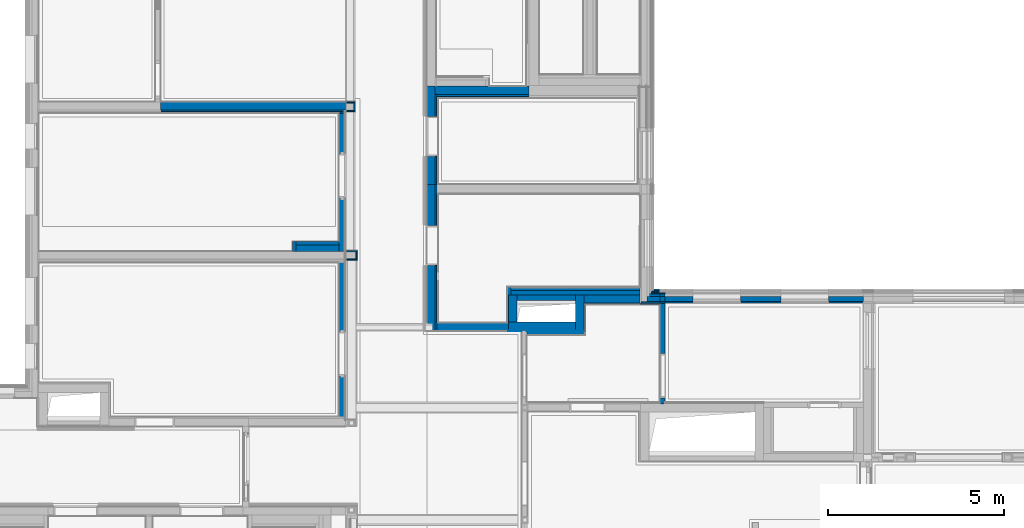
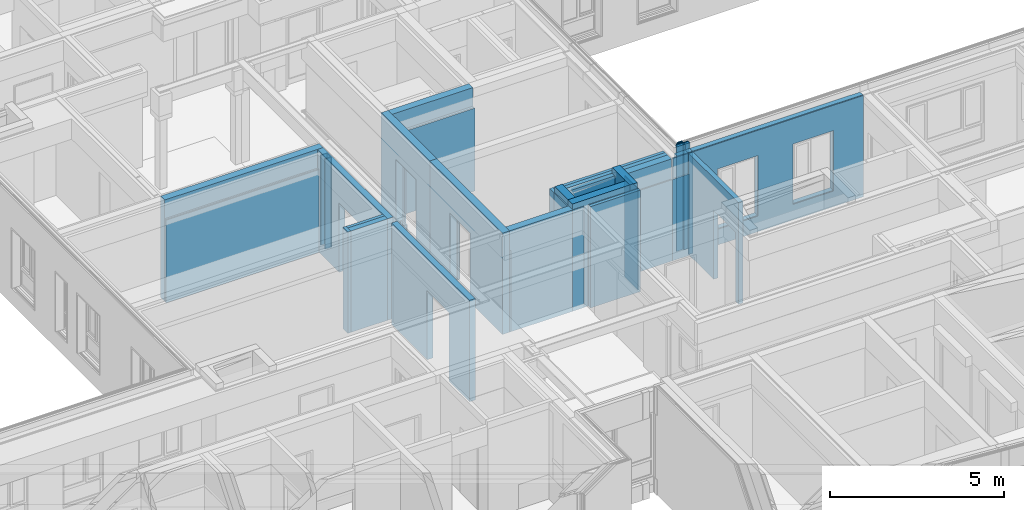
# One storey, part 27 of 222: 53 walls, 13 openings.
"""IFC4 building model written with IfcOpenShell, lengths in metres."""

from ifc_helpers import new_model, entity, si_unit, converted_unit, derived_unit, frame, frame_2d, origin, origin_with_axes, place, context, subcontext, project, spatial, polyline, rectangle, outline, extrude, clip, bounded_halfspace, material, element, save


model = new_model("IFC4")

# Units and contexts
model_context = context("Model", 3, precision=1e-05, world=origin())
body_context = subcontext(model_context, "Body", "Model", "MODEL_VIEW")
ifc_project = project(units=[si_unit("LENGTHUNIT", "METRE"), si_unit("AREAUNIT", "SQUARE_METRE"), si_unit("VOLUMEUNIT", "CUBIC_METRE"), si_unit("MASSUNIT", "GRAM", prefix="KILO"), converted_unit("PLANEANGLEUNIT", "DEGREE", entity("IfcPlaneAngleMeasure", 0.0174532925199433), si_unit("PLANEANGLEUNIT", "RADIAN"), dimensions=[0, 0, 0, 0, 0, 0, 0]), derived_unit("THERMALTRANSMITTANCEUNIT", [(si_unit("POWERUNIT", "WATT"), 1), (si_unit("THERMODYNAMICTEMPERATUREUNIT", "KELVIN"), -1), (si_unit("LENGTHUNIT", "METRE"), -2)]), derived_unit("VOLUMETRICFLOWRATEUNIT", [(si_unit("LENGTHUNIT", "METRE"), 3), (converted_unit("TIMEUNIT", "hour", entity("IfcTimeMeasure", 3600.0), si_unit("TIMEUNIT", "SECOND"), dimensions=[0, 0, 1, 0, 0, 0, 0]), -1), (si_unit("LENGTHUNIT", "METRE"), -1)])], contexts=[model_context])

# Site, building, storey
site_placement = place(None, origin())
site = spatial("IfcSite", under=ifc_project, at=site_placement, Name="Psychiatrie Neubau Wunstorf", CompositionType="ELEMENT")
building_placement = place(site_placement, origin())
building = spatial("IfcBuilding", under=site, at=building_placement, Name="Neubau H2 Stationsgebäude", CompositionType="ELEMENT")
storey_placement = place(building_placement, frame((0.0, 0.0, 3.6)))
storey = spatial("IfcBuildingStorey", under=building, at=storey_placement, Name="H2 Ebene +1", CompositionType="ELEMENT", Elevation=3.6)

# Walls
ifc_material_1 = material(Name="WA-LB")
wall_1_placement = place(storey_placement, frame((43.9750000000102, 10.1139996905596, 0.0)))
element("IfcWall", 1, at=wall_1_placement, inside=storey, material=ifc_material_1, context=body_context, shape_type="SweptSolid", body=[
    extrude(rectangle(XDim=0.524999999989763, YDim=0.036, at=frame_2d((0.262499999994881, 0.018), x_axis=(1.0, 0.0))), origin_with_axes(), (0.0, 0.0, 1.0), 3.55),
])
ifc_material_2 = material(Name="WA-DL")
wall_2_placement = place(storey_placement, frame((44.1350000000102, 10.1499996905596, 0.0)))
element("IfcWall", 2, at=wall_2_placement, inside=storey, material=ifc_material_2, context=body_context, shape_type="SweptSolid", body=[
    extrude(rectangle(XDim=0.364999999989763, YDim=0.16, at=frame_2d((0.182499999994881, 0.08), x_axis=(1.0, 0.0))), origin_with_axes(), (0.0, 0.0, 1.0), 3.55),
])
ifc_material_3 = material(Name="WA-DL")
wall_3_placement = place(storey_placement, frame((44.2150000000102, 10.3099996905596, 0.0)))
element("IfcWall", 3, at=wall_3_placement, inside=storey, material=ifc_material_3, context=body_context, shape_type="SweptSolid", body=[
    extrude(rectangle(XDim=0.284999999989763, YDim=0.08, at=frame_2d((0.142499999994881, 0.04), x_axis=(1.0, 0.0))), origin_with_axes(), (0.0, 0.0, 1.0), 3.75),
])
ifc_material_4 = material(Name="WA-LB")
wall_4_placement = place(storey_placement, frame((44.2510000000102, 10.3899996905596, 0.0)))
element("IfcWall", 4, at=wall_4_placement, inside=storey, material=ifc_material_4, context=body_context, shape_type="SweptSolid", body=[
    extrude(rectangle(XDim=0.248999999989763, YDim=0.036, at=frame_2d((0.124499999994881, 0.018), x_axis=(1.0, 0.0))), origin_with_axes(), (0.0, 0.0, 1.0), 3.75),
])
ifc_material_5 = material(Name="WA-KL")
wall_5_placement = place(storey_placement, frame((44.2750000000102, 10.4259996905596, 0.0)))
element("IfcWall", 5, at=wall_5_placement, inside=storey, material=ifc_material_5, context=body_context, shape_type="SweptSolid", body=[
    extrude(rectangle(XDim=0.224999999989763, YDim=0.024, at=frame_2d((0.112499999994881, 0.012), x_axis=(1.0, 0.0))), origin_with_axes(), (0.0, 0.0, 1.0), 3.75),
])
ifc_material_6 = material(Name="WA-TL")
wall_6_placement = place(storey_placement, frame((44.2990000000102, 10.4499996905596, 0.0)))
element("IfcWall", 6, at=wall_6_placement, inside=storey, material=ifc_material_6, context=body_context, shape_type="SweptSolid", body=[
    extrude(rectangle(XDim=0.200999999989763, YDim=0.024, at=frame_2d((0.100499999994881, 0.012), x_axis=(1.0, 0.0))), origin_with_axes(), (0.0, 0.0, 1.0), 3.75),
])
ifc_material_7 = material(Name="WA-HS")
wall_7_placement = place(storey_placement, frame((44.3410000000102, 10.4739996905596, 0.0)))
element("IfcWall", 7, at=wall_7_placement, inside=storey, material=ifc_material_7, context=body_context, shape_type="SweptSolid", body=[
    extrude(rectangle(XDim=0.158999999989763, YDim=0.042, at=frame_2d((0.0794999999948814, 0.021), x_axis=(1.0, 0.0))), origin_with_axes(), (0.0, 0.0, 1.0), 3.75),
])
ifc_material_8 = material(Name="WA-LB")
wall_8_placement = place(storey_placement, frame((44.5, 10.1139996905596, 0.0), z_axis=(0.0, 0.0, 1.0), x_axis=(1.0, 2.42531920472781e-14, 0.0)))
element("IfcWall", 8, at=wall_8_placement, inside=storey, material=ifc_material_8, Name="2x Gipsfaserplatte", context=body_context, shape_type="SweptSolid", body=[
    extrude(rectangle(XDim=0.15, YDim=0.036, at=frame_2d((0.075, 0.018), x_axis=(1.0, 0.0))), origin_with_axes(), (0.0, 0.0, 1.0), 3.55),
])
ifc_material_9 = material(Name="WA-DL")
wall_9_placement = place(storey_placement, frame((44.5, 10.1499996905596, 0.0), z_axis=(0.0, 0.0, 1.0), x_axis=(1.0, 2.42531920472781e-14, 0.0)))
element("IfcWall", 9, at=wall_9_placement, inside=storey, material=ifc_material_9, Name="Holzständer + Zwischendämmung", context=body_context, shape_type="SweptSolid", body=[
    extrude(rectangle(XDim=0.15, YDim=0.16, at=frame_2d((0.075, 0.08), x_axis=(1.0, 0.0))), origin_with_axes(), (0.0, 0.0, 1.0), 3.55),
])
ifc_material_10 = material(Name="WA-DL")
wall_10_placement = place(storey_placement, frame((44.5, 10.3099996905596, 0.0), z_axis=(0.0, 0.0, 1.0), x_axis=(1.0, 2.42531920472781e-14, 0.0)))
element("IfcWall", 10, at=wall_10_placement, inside=storey, material=ifc_material_10, Name="Staffel + Zwischendämmung", context=body_context, shape_type="SweptSolid", body=[
    extrude(rectangle(XDim=0.15, YDim=0.08, at=frame_2d((0.075, 0.04), x_axis=(1.0, 0.0))), origin_with_axes(), (0.0, 0.0, 1.0), 3.75),
])
ifc_material_11 = material(Name="WA-LB")
wall_11_placement = place(storey_placement, frame((44.5, 10.3899996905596, 0.0), z_axis=(0.0, 0.0, 1.0), x_axis=(1.0, 2.42531920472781e-14, 0.0)))
element("IfcWall", 11, at=wall_11_placement, inside=storey, material=ifc_material_11, context=body_context, shape_type="SweptSolid", body=[
    extrude(rectangle(XDim=0.15, YDim=0.036, at=frame_2d((0.075, 0.018), x_axis=(1.0, 0.0))), origin_with_axes(), (0.0, 0.0, 1.0), 3.75),
])

# Wall, openings
ifc_material_12 = material(Name="WA-LB")
wall_12_placement = place(storey_placement, frame((44.65, 10.1139996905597, 0.0), z_axis=(0.0, 0.0, 1.0), x_axis=(1.0, -3.22744748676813e-16, 0.0)))
wall_12 = element("IfcWall", 12, at=wall_12_placement, inside=storey, material=ifc_material_12, context=body_context, shape_type="SweptSolid", body=[
    extrude(rectangle(XDim=5.63600000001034, YDim=0.036, at=frame_2d((2.81800000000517, 0.018), x_axis=(1.0, 0.0))), origin_with_axes(), (0.0, 0.0, 1.0), 3.55),
])
opening_1_placement = place(wall_12_placement, frame((4.64867714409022, 0.035999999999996, 0.55), z_axis=(0.0, -1.0, 0.0), x_axis=(0.0, 0.0, 1.0)))
element("IfcOpeningElement", 13, at=opening_1_placement, cuts=wall_12, Name="Fensteröffnung", ObjectType="Opening", context=body_context, shape_type="SweptSolid", body=[
    extrude(outline(polyline([(2.115, 1.35), (2.115, 0.0), (0.0, 0.0), (0.0, 1.35), (2.115, 1.35)])), origin_with_axes(), (0.0, 0.0, 1.0), 0.036),
])
opening_2_placement = place(wall_12_placement, frame((2.14867714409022, 0.0360000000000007, 0.55), z_axis=(0.0, -1.0, 0.0), x_axis=(0.0, 0.0, 1.0)))
element("IfcOpeningElement", 14, at=opening_2_placement, cuts=wall_12, Name="Fensteröffnung", ObjectType="Opening", context=body_context, shape_type="SweptSolid", body=[
    extrude(outline(polyline([(2.115, 1.35), (2.115, 0.0), (0.0, 0.0), (0.0, 1.35), (2.115, 1.35)])), origin_with_axes(), (0.0, 0.0, 1.0), 0.036),
])

ifc_material_13 = material(Name="WA-DL")
wall_13_placement = place(storey_placement, frame((44.65, 10.1499996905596, 0.0), z_axis=(0.0, 0.0, 1.0), x_axis=(1.0, -3.22744748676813e-16, 0.0)))
wall_13 = element("IfcWall", 15, at=wall_13_placement, inside=storey, material=ifc_material_13, context=body_context, shape_type="SweptSolid", body=[
    extrude(rectangle(XDim=5.63600000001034, YDim=0.16, at=frame_2d((2.81800000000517, 0.08), x_axis=(1.0, 0.0))), origin_with_axes(), (0.0, 0.0, 1.0), 3.55),
])
opening_3_placement = place(wall_13_placement, frame((4.64867714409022, 0.159999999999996, 0.55), z_axis=(0.0, -1.0, 0.0), x_axis=(0.0, 0.0, 1.0)))
element("IfcOpeningElement", 16, at=opening_3_placement, cuts=wall_13, Name="Fensteröffnung", ObjectType="Opening", context=body_context, shape_type="SweptSolid", body=[
    extrude(outline(polyline([(2.115, 1.35), (2.115, 0.0), (0.0, 0.0), (0.0, 1.35), (2.115, 1.35)])), origin_with_axes(), (0.0, 0.0, 1.0), 0.16),
])
opening_4_placement = place(wall_13_placement, frame((2.14867714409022, 0.160000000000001, 0.55), z_axis=(0.0, -1.0, 0.0), x_axis=(0.0, 0.0, 1.0)))
element("IfcOpeningElement", 17, at=opening_4_placement, cuts=wall_13, Name="Fensteröffnung", ObjectType="Opening", context=body_context, shape_type="SweptSolid", body=[
    extrude(outline(polyline([(2.115, 1.35), (2.115, 0.0), (0.0, 0.0), (0.0, 1.35), (2.115, 1.35)])), origin_with_axes(), (0.0, 0.0, 1.0), 0.16),
])

# Walls
ifc_material_14 = material(Name="WI-LB")
wall_14_placement = place(storey_placement, frame((40.199951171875, 9.32249624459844, 0.0)))
element("IfcWall", 18, at=wall_14_placement, inside=storey, material=ifc_material_14, context=body_context, shape_type="SweptSolid", body=[
    extrude(rectangle(XDim=0.375046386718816, YDim=0.0125, at=frame_2d((0.187523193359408, 0.00625), x_axis=(1.0, 0.0))), origin_with_axes(), (0.0, 0.0, 1.0), 3.55),
])
ifc_material_15 = material(Name="WI-LB")
wall_15_placement = place(storey_placement, frame((42.3499511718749, 10.0740012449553, 0.0), z_axis=(0.0, 0.0, 1.0), x_axis=(0.0, -1.0, 0.0)))
element("IfcWall", 19, at=wall_15_placement, inside=storey, material=ifc_material_15, context=body_context, shape_type="SweptSolid", body=[
    extrude(rectangle(XDim=0.764004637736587, YDim=0.0299996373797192, at=frame_2d((0.382002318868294, 0.0149998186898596), x_axis=(1.0, 0.0))), origin_with_axes(), (0.0, 0.0, 1.0), 3.55),
])
ifc_material_16 = material(Name="WI-LB")
wall_16_placement = place(storey_placement, frame((40.199951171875, 9.55599624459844, 0.0), z_axis=(0.0, 0.0, 1.0), x_axis=(0.0, 1.0, 0.0)))
element("IfcWall", 20, at=wall_16_placement, inside=storey, material=ifc_material_16, context=body_context, shape_type="SweptSolid", body=[
    extrude(rectangle(XDim=0.790003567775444, YDim=0.0299996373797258, at=frame_2d((0.395001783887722, 0.0149998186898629), x_axis=(1.0, 0.0))), origin_with_axes(), (0.0, 0.0, 1.0), 3.55),
])
ifc_material_17 = material(Name="WI-GKF")
wall_17_placement = place(storey_placement, frame((35.6, 11.337557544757, 0.0)))
element("IfcWall", 21, at=wall_17_placement, inside=storey, material=ifc_material_17, context=body_context, shape_type="SweptSolid", body=[
    extrude(rectangle(XDim=0.265, YDim=0.036, at=frame_2d((0.1325, 0.018), x_axis=(1.0, 0.0))), origin_with_axes(), (0.0, 0.0, 1.0), 3.317),
])
ifc_material_18 = material(Name="WI-GKF")
wall_18_placement = place(storey_placement, frame((35.6, 15.5604990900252, 0.0)))
element("IfcWall", 22, at=wall_18_placement, inside=storey, material=ifc_material_18, context=body_context, shape_type="SweptSolid", body=[
    extrude(rectangle(XDim=0.199999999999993, YDim=0.036, at=frame_2d((0.0999999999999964, 0.018), x_axis=(1.0, 0.0))), origin_with_axes(), (0.0, 0.0, 1.0), 3.15),
])
ifc_material_19 = material(Name="WI-GKF")
wall_19_placement = place(storey_placement, frame((35.865, 11.609557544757, 0.0), z_axis=(0.0, 0.0, 1.0), x_axis=(-1.0, 0.0, 0.0)))
element("IfcWall", 23, at=wall_19_placement, inside=storey, material=ifc_material_19, context=body_context, shape_type="Clipping", body=[
    clip(extrude(rectangle(XDim=0.264999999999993, YDim=0.036, at=frame_2d((0.132499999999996, 0.018), x_axis=(1.0, 0.0))), origin_with_axes(), (0.0, 0.0, 1.0), 3.317), bounded_halfspace(frame((0.164999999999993, 0.018, 3.15), z_axis=(0.0, 0.0, -1.0), x_axis=(-1.0, 0.0, 0.0)), True, origin_with_axes(), polyline([(0.264999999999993, 0.036), (0.0649999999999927, 0.036), (0.0649999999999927, 0.0), (0.264999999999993, 0.0), (0.264999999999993, 0.036)]))),
])
ifc_material_20 = material(Name="WI-GKF")
wall_20_placement = place(storey_placement, frame((35.8, 15.8324990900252, 0.0), z_axis=(0.0, 0.0, 1.0), x_axis=(-1.0, 0.0, 0.0)))
element("IfcWall", 24, at=wall_20_placement, inside=storey, material=ifc_material_20, context=body_context, shape_type="SweptSolid", body=[
    extrude(rectangle(XDim=0.199999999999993, YDim=0.036, at=frame_2d((0.0999999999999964, 0.018), x_axis=(1.0, 0.0))), origin_with_axes(), (0.0, 0.0, 1.0), 3.15),
])
ifc_material_21 = material(Name="WI-GKF")
wall_21_placement = place(storey_placement, frame((35.901, 11.337557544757, 0.0), z_axis=(0.0, 0.0, 1.0), x_axis=(0.0, 1.0, 0.0)))
element("IfcWall", 25, at=wall_21_placement, inside=storey, material=ifc_material_21, context=body_context, shape_type="SweptSolid", body=[
    extrude(rectangle(XDim=0.272, YDim=0.036, at=frame_2d((0.136, 0.018), x_axis=(1.0, 0.0))), origin_with_axes(), (0.0, 0.0, 1.0), 3.317),
])
ifc_material_22 = material(Name="WI-IW")
wall_22_placement = place(storey_placement, frame((43.9390000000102, 10.0740012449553, 0.0)))
element("IfcWall", 26, at=wall_22_placement, inside=storey, material=ifc_material_22, context=body_context, shape_type="SweptSolid", body=[
    extrude(rectangle(XDim=0.560999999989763, YDim=0.04, at=frame_2d((0.280499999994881, 0.02), x_axis=(1.0, 0.0))), origin_with_axes(), (0.0, 0.0, 1.0), 2.85),
])
ifc_material_23 = material(Name="WI-HW 60")
wall_23_placement = place(storey_placement, frame((40.199951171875, 9.55599624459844, 0.0), z_axis=(0.0, 0.0, 1.0), x_axis=(-1.0, 0.0, 0.0)))
element("IfcWall", 27, at=wall_23_placement, inside=storey, material=ifc_material_23, context=body_context, shape_type="SweptSolid", body=[
    extrude(rectangle(XDim=2.08595117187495, YDim=0.232, at=frame_2d((1.04297558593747, 0.116), x_axis=(1.0, 0.0))), origin_with_axes(), (0.0, 0.0, 1.0), 3.55),
])
ifc_material_24 = material(Name="WI-LB")
wall_24_placement = place(storey_placement, frame((42.3499511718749, 10.0740012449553, 0.0)))
element("IfcWall", 28, at=wall_24_placement, inside=storey, material=ifc_material_24, context=body_context, shape_type="SweptSolid", body=[
    extrude(rectangle(XDim=1.58904882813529, YDim=0.04, at=frame_2d((0.794524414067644, 0.02), x_axis=(1.0, 0.0))), origin_with_axes(), (0.0, 0.0, 1.0), 2.85),
])
ifc_material_25 = material(Name="WI-HW 60")
wall_25_placement = place(storey_placement, frame((42.3499511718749, 10.1140012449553, 0.0)))
element("IfcWall", 29, at=wall_25_placement, inside=storey, material=ifc_material_25, context=body_context, shape_type="SweptSolid", body=[
    extrude(rectangle(XDim=1.58904882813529, YDim=0.232, at=frame_2d((0.794524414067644, 0.116), x_axis=(1.0, 0.0))), origin_with_axes(), (0.0, 0.0, 1.0), 3.55),
])

# Wall, opening
ifc_material_26 = material(Name="WI-LB")
wall_26_placement = place(storey_placement, frame((38.2045, 13.4894966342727, 0.0), z_axis=(0.0, 0.0, 1.0), x_axis=(-2.92735065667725e-15, 1.0, 0.0)))
wall_26 = element("IfcWall", 30, at=wall_26_placement, inside=storey, material=ifc_material_26, context=body_context, shape_type="SweptSolid", body=[
    extrude(rectangle(XDim=2.48550941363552, YDim=0.04, at=frame_2d((1.24275470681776, 0.02), x_axis=(1.0, 0.0))), origin_with_axes(), (0.0, 0.0, 1.0), 2.9),
])
opening_5_placement = place(wall_26_placement, frame((1.93550336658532, 0.0400000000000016, 0.0), z_axis=(-5.6843418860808e-15, -1.0, 0.0), x_axis=(0.0, 0.0, 1.0)))
element("IfcOpeningElement", 31, at=opening_5_placement, cuts=wall_26, Name="Türöffnung", ObjectType="Opening", context=body_context, shape_type="SweptSolid", body=[
    extrude(outline(polyline([(2.41, 1.135), (2.41, 0.0), (0.0, 0.0), (0.0, 1.135), (2.41, 1.135)])), origin_with_axes(), (0.0, 0.0, 1.0), 0.04),
])

ifc_material_27 = material(Name="Installationsraum")
wall_27_placement = place(storey_placement, frame((38.1645, 13.4894966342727, 0.0), z_axis=(0.0, 0.0, 1.0), x_axis=(-2.84160549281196e-15, 1.0, 0.0)))
wall_27 = element("IfcWall", 32, at=wall_27_placement, inside=storey, material=ifc_material_27, context=body_context, shape_type="SweptSolid", body=[
    extrude(rectangle(XDim=2.56050941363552, YDim=0.05, at=frame_2d((1.28025470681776, 0.025), x_axis=(1.0, 0.0))), origin_with_axes(), (0.0, 0.0, 1.0), 2.9),
])
opening_6_placement = place(wall_27_placement, frame((1.93550336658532, 0.0500000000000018, 0.0), z_axis=(-4.54747350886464e-15, -1.0, 0.0), x_axis=(0.0, 0.0, 1.0)))
element("IfcOpeningElement", 33, at=opening_6_placement, cuts=wall_27, Name="Türöffnung", ObjectType="Opening", context=body_context, shape_type="SweptSolid", body=[
    extrude(outline(polyline([(2.41, 1.135), (2.41, 0.0), (0.0, 0.0), (0.0, 1.135), (2.41, 1.135)])), origin_with_axes(), (0.0, 0.0, 1.0), 0.05),
])

ifc_material_28 = material(Name="WI-HW 60")
wall_28_placement = place(storey_placement, frame((38.1145, 13.4894966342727, 0.0), z_axis=(0.0, 0.0, 1.0), x_axis=(-2.6055266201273e-15, 1.0, 0.0)))
wall_28 = element("IfcWall", 34, at=wall_28_placement, inside=storey, material=ifc_material_28, context=body_context, shape_type="SweptSolid", body=[
    extrude(rectangle(XDim=2.79250941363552, YDim=0.232, at=frame_2d((1.39625470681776, 0.116), x_axis=(1.0, 0.0))), origin_with_axes(), (0.0, 0.0, 1.0), 3.55),
])
opening_7_placement = place(wall_28_placement, frame((1.93550336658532, 0.232000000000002, 0.0), z_axis=(4.90029472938e-15, -1.0, 0.0), x_axis=(0.0, 0.0, 1.0)))
element("IfcOpeningElement", 35, at=opening_7_placement, cuts=wall_28, Name="Türöffnung", ObjectType="Opening", context=body_context, shape_type="SweptSolid", body=[
    extrude(outline(polyline([(2.41, 1.135), (2.41, 0.0), (0.0, 0.0), (0.0, 1.135), (2.41, 1.135)])), origin_with_axes(), (0.0, 0.0, 1.0), 0.232),
])

# Walls
ifc_material_29 = material(Name="WI-LB")
wall_29_placement = place(storey_placement, frame((30.3168490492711, 15.5104990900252, 0.0)))
element("IfcWall", 36, at=wall_29_placement, inside=storey, material=ifc_material_29, context=body_context, shape_type="SweptSolid", body=[
    extrude(rectangle(XDim=5.25315095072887, YDim=0.04, at=frame_2d((2.62657547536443, 0.02), x_axis=(1.0, 0.0))), origin_with_axes(), (0.0, 0.0, 1.0), 2.9),
])
ifc_material_30 = material(Name="Installationsraum")
wall_30_placement = place(storey_placement, frame((30.3168490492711, 15.5504990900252, 0.0)))
element("IfcWall", 37, at=wall_30_placement, inside=storey, material=ifc_material_30, context=body_context, shape_type="SweptSolid", body=[
    extrude(rectangle(XDim=5.25315095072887, YDim=0.05, at=frame_2d((2.62657547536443, 0.025), x_axis=(1.0, 0.0))), origin_with_axes(), (0.0, 0.0, 1.0), 2.9),
])
ifc_material_31 = material(Name="WI-HW 60")
wall_31_placement = place(storey_placement, frame((30.3168490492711, 15.6004990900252, 0.0)))
element("IfcWall", 38, at=wall_31_placement, inside=storey, material=ifc_material_31, context=body_context, shape_type="SweptSolid", body=[
    extrude(rectangle(XDim=5.25315095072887, YDim=0.232, at=frame_2d((2.62657547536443, 0.116), x_axis=(1.0, 0.0))), origin_with_axes(), (0.0, 0.0, 1.0), 3.55),
])
ifc_material_32 = material(Name="WI-STB")
wall_32_placement = place(storey_placement, frame((42.0999511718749, 10.3460000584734, 0.0), z_axis=(0.0, 0.0, 1.0), x_axis=(0.0, -1.0, 0.0)))
element("IfcWall", 39, at=wall_32_placement, inside=storey, material=ifc_material_32, context=body_context, shape_type="Clipping", body=[
    clip(extrude(rectangle(XDim=1.01100350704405, YDim=0.250000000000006, at=frame_2d((0.505501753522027, 0.125000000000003), x_axis=(1.0, 0.0))), origin_with_axes(), (0.0, 0.0, 1.0), 3.75), bounded_halfspace(frame((0.125000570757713, 0.125, 0.1), z_axis=(0.0, 0.0, 1.0), x_axis=(-1.69275332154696e-06, -0.999999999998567, 0.0)), True, origin_with_axes(), polyline([(4.23188330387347e-07, 0.25), (0.0, 0.0), (0.250000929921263, 0.0), (0.250000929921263, 0.25), (4.23188330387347e-07, 0.25)]))),
])
ifc_material_33 = material(Name="WI-GKF")
wall_33_placement = place(storey_placement, frame((35.836, 15.5604990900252, 0.0), z_axis=(0.0, 0.0, 1.0), x_axis=(0.0, 1.0, 0.0)))
element("IfcWall", 40, at=wall_33_placement, inside=storey, material=ifc_material_33, context=body_context, shape_type="SweptSolid", body=[
    extrude(rectangle(XDim=0.272, YDim=0.036, at=frame_2d((0.136, 0.018), x_axis=(1.0, 0.0))), origin_with_axes(), (0.0, 0.0, 1.0), 3.15),
])

# Wall, opening
ifc_material_34 = material(Name="WI-LB")
wall_34_placement = place(storey_placement, frame((35.57, 11.589557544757, 0.0), z_axis=(0.0, 0.0, 1.0), x_axis=(0.0, 1.0, 0.0)))
wall_34 = element("IfcWall", 41, at=wall_34_placement, inside=storey, material=ifc_material_34, context=body_context, shape_type="SweptSolid", body=[
    extrude(rectangle(XDim=4.01094154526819, YDim=0.19, at=frame_2d((2.0054707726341, 0.095), x_axis=(1.0, 0.0))), origin_with_axes(), (0.0, 0.0, 1.0), 3.55),
])
opening_8_placement = place(wall_34_placement, frame((2.77044245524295, 0.19, 0.0), z_axis=(0.0, -1.0, 0.0), x_axis=(0.0, 0.0, 1.0)))
element("IfcOpeningElement", 42, at=opening_8_placement, cuts=wall_34, Name="Türöffnung", ObjectType="Opening", context=body_context, shape_type="SweptSolid", body=[
    extrude(outline(polyline([(2.41, 1.26), (2.41, 0.0), (0.0, 0.0), (0.0, 1.26), (2.41, 1.26)])), origin_with_axes(), (0.0, 0.0, 1.0), 0.19),
])

ifc_material_35 = material(Name="WI-LB")
wall_35_placement = place(storey_placement, frame((38.2045, 9.55599624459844, 0.0), z_axis=(0.0, 0.0, 1.0), x_axis=(1.98715194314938e-15, 1.0, 0.0)))
wall_35 = element("IfcWall", 43, at=wall_35_placement, inside=storey, material=ifc_material_35, context=body_context, shape_type="SweptSolid", body=[
    extrude(rectangle(XDim=3.66150038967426, YDim=0.04, at=frame_2d((1.83075019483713, 0.02), x_axis=(1.0, 0.0))), origin_with_axes(), (0.0, 0.0, 1.0), 2.85),
])
opening_9_placement = place(wall_35_placement, frame((2.76900344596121, 0.0400000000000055, 0.0), z_axis=(0.0, -1.0, 0.0), x_axis=(0.0, 0.0, 1.0)))
element("IfcOpeningElement", 44, at=opening_9_placement, cuts=wall_35, Name="Türöffnung", ObjectType="Opening", context=body_context, shape_type="SweptSolid", body=[
    extrude(outline(polyline([(2.41, 1.135), (2.41, 0.0), (0.0, 0.0), (0.0, 1.135), (2.41, 1.135)])), origin_with_axes(), (0.0, 0.0, 1.0), 0.04),
])

ifc_material_36 = material(Name="Installationsraum")
wall_36_placement = place(storey_placement, frame((38.1645, 9.32399624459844, 0.0), z_axis=(0.0, 0.0, 1.0), x_axis=(1.74671874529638e-15, 1.0, 0.0)))
wall_36 = element("IfcWall", 45, at=wall_36_placement, inside=storey, material=ifc_material_36, context=body_context, shape_type="SweptSolid", body=[
    extrude(outline(polyline([(0.0, -0.05), (3.89350038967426, -0.0500000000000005), (3.89350038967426, -0.0494999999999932), (3.93350038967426, -0.0494999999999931), (3.93350038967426, -0.0500000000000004), (4.16550038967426, -0.05), (4.16550038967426, 0.0), (0.0, 0.0), (0.0, -0.05)])), frame((0.0, 0.05, 0.0), z_axis=(0.0, 0.0, 1.0), x_axis=(1.0, 0.0, 0.0)), (0.0, 0.0, 1.0), 2.85),
])
opening_10_placement = place(wall_36_placement, frame((3.00100344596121, 0.0500000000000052, 0.0), z_axis=(0.0, -1.0, 0.0), x_axis=(0.0, 0.0, 1.0)))
element("IfcOpeningElement", 46, at=opening_10_placement, cuts=wall_36, Name="Türöffnung", ObjectType="Opening", context=body_context, shape_type="SweptSolid", body=[
    extrude(outline(polyline([(2.41, 1.135), (2.41, 0.0), (0.0, 0.0), (0.0, 1.135), (2.41, 1.135)])), origin_with_axes(), (0.0, 0.0, 1.0), 0.05),
])

ifc_material_37 = material(Name="WI-HW 60")
wall_37_placement = place(storey_placement, frame((38.1145, 9.55599624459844, 0.0), z_axis=(0.0, 0.0, 1.0), x_axis=(1.96567792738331e-15, 1.0, 0.0)))
wall_37 = element("IfcWall", 47, at=wall_37_placement, inside=storey, material=ifc_material_37, context=body_context, shape_type="SweptSolid", body=[
    extrude(outline(polyline([(0.232, -0.232), (3.93350038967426, -0.232), (3.93350038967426, -0.231499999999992), (4.16550038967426, -0.231499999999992), (4.16550038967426, 0.0), (0.0, 0.0), (0.0, -0.231499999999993), (0.232, -0.231499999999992), (0.232, -0.232)])), frame((-0.232, 0.232, 0.0), z_axis=(0.0, 0.0, 1.0), x_axis=(1.0, 0.0, 0.0)), (0.0, 0.0, 1.0), 3.55),
])
opening_11_placement = place(wall_37_placement, frame((2.76900344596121, 0.232000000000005, 0.0), z_axis=(1.960117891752e-15, -1.0, 0.0), x_axis=(0.0, 0.0, 1.0)))
element("IfcOpeningElement", 48, at=opening_11_placement, cuts=wall_37, Name="Türöffnung", ObjectType="Opening", context=body_context, shape_type="SweptSolid", body=[
    extrude(outline(polyline([(2.41, 1.135), (2.41, 0.0), (0.0, 0.0), (0.0, 1.135), (2.41, 1.135)])), origin_with_axes(), (0.0, 0.0, 1.0), 0.232),
])

# Wall
ifc_material_38 = material(Name="WI-IW")
wall_38_placement = place(storey_placement, frame((40.1699519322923, 10.5810032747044, 0.0), z_axis=(0.0, 0.0, 1.0), x_axis=(-1.69275333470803e-06, -0.999999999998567, 0.0)))
element("IfcWall", 49, at=wall_38_placement, inside=storey, material=ifc_material_38, context=body_context, shape_type="SweptSolid", body=[
    extrude(rectangle(XDim=0.235, YDim=0.0999999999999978, at=frame_2d((0.1175, 0.0499999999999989), x_axis=(1.0, 0.0))), origin_with_axes(), (0.0, 0.0, 1.0), 3.55),
])

# Wall, opening
ifc_material_39 = material(Name="WI-LB")
wall_39_placement = place(storey_placement, frame((44.65, 7.24499969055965, 0.0), z_axis=(0.0, 0.0, 1.0), x_axis=(0.0, 1.0, 0.0)))
wall_39 = element("IfcWall", 50, at=wall_39_placement, inside=storey, material=ifc_material_39, context=body_context, shape_type="SweptSolid", body=[
    extrude(rectangle(XDim=2.86900155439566, YDim=0.15, at=frame_2d((1.43450077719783, 0.075), x_axis=(1.0, 0.0))), origin_with_axes(), (0.0, 0.0, 1.0), 3.55),
])
opening_12_placement = place(wall_39_placement, frame((0.18, 0.0, 0.0), z_axis=(0.0, 1.0, 0.0), x_axis=(0.0, 0.0, 1.0)))
element("IfcOpeningElement", 51, at=opening_12_placement, cuts=wall_39, Name="Türöffnung", ObjectType="Opening", context=body_context, shape_type="SweptSolid", body=[
    extrude(outline(polyline([(2.41, 1.26), (2.41, 0.0), (0.0, 0.0), (0.0, 1.26), (2.41, 1.26)])), origin_with_axes(), (0.0, 0.0, 1.0), 0.15),
])

# Walls
ifc_material_40 = material(Name="WI-LB")
wall_40_placement = place(storey_placement, frame((42.0999511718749, 10.3459998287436, 0.1), z_axis=(0.0, 0.0, 1.0), x_axis=(-1.0, 0.0, 0.0)))
element("IfcWall", 52, at=wall_40_placement, inside=storey, material=ifc_material_40, context=body_context, shape_type="SweptSolid", body=[
    extrude(rectangle(XDim=1.65, YDim=0.15, at=frame_2d((0.825, 0.075), x_axis=(1.0, 0.0))), origin_with_axes(), (0.0, 0.0, 1.0), 3.45),
])
ifc_material_41 = material(Name="WI-IW")
wall_41_placement = place(storey_placement, frame((35.38, 11.864557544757, 0.0), z_axis=(0.0, 0.0, 1.0), x_axis=(-1.0, 0.0, 0.0)))
element("IfcWall", 53, at=wall_41_placement, inside=storey, material=ifc_material_41, context=body_context, shape_type="SweptSolid", body=[
    extrude(rectangle(XDim=1.20999999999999, YDim=0.1, at=frame_2d((0.604999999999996, 0.05), x_axis=(1.0, 0.0))), origin_with_axes(), (0.0, 0.0, 1.0), 3.55),
])
ifc_material_42 = material(Name="Installationsraum")
wall_42_placement = place(storey_placement, frame((35.38, 11.764557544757, 0.0), z_axis=(0.0, 0.0, 1.0), x_axis=(-1.0, 0.0, 0.0)))
element("IfcWall", 54, at=wall_42_placement, inside=storey, material=ifc_material_42, context=body_context, shape_type="SweptSolid", body=[
    extrude(rectangle(XDim=1.20999999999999, YDim=0.175, at=frame_2d((0.604999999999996, 0.0875), x_axis=(1.0, 0.0))), origin_with_axes(), (0.0, 0.0, 1.0), 3.55),
])
ifc_material_43 = material(Name="WI-LB")
wall_43_placement = place(storey_placement, frame((38.2045, 15.9355060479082, 0.0)))
element("IfcWall", 55, at=wall_43_placement, inside=storey, material=ifc_material_43, context=body_context, shape_type="SweptSolid", body=[
    extrude(rectangle(XDim=2.57450000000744, YDim=0.0395, at=frame_2d((1.28725000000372, 0.01975), x_axis=(1.0, 0.0))), origin_with_axes(), (0.0, 0.0, 1.0), 2.9),
])
ifc_material_44 = material(Name="Installationsraum")
wall_44_placement = place(storey_placement, frame((38.1645, 15.9750060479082, 0.0)))
element("IfcWall", 56, at=wall_44_placement, inside=storey, material=ifc_material_44, context=body_context, shape_type="SweptSolid", body=[
    extrude(rectangle(XDim=2.61450000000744, YDim=0.075, at=frame_2d((1.30725000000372, 0.0375), x_axis=(1.0, 0.0))), origin_with_axes(), (0.0, 0.0, 1.0), 2.9),
])
ifc_material_45 = material(Name="WI-HW 60")
wall_45_placement = place(storey_placement, frame((38.1145, 16.0500060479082, 0.0)))
element("IfcWall", 57, at=wall_45_placement, inside=storey, material=ifc_material_45, context=body_context, shape_type="SweptSolid", body=[
    extrude(rectangle(XDim=2.66450000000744, YDim=0.232, at=frame_2d((1.33225000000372, 0.116), x_axis=(1.0, 0.0))), origin_with_axes(), (0.0, 0.0, 1.0), 3.55),
])

# Wall, opening
ifc_material_46 = material(Name="WI-LB")
wall_46_placement = place(storey_placement, frame((35.57, 6.88399999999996, 0.0), z_axis=(0.0, 0.0, 1.0), x_axis=(0.0, 1.0, 0.0)))
wall_46 = element("IfcWall", 58, at=wall_46_placement, inside=storey, material=ifc_material_46, context=body_context, shape_type="SweptSolid", body=[
    extrude(rectangle(XDim=4.47355754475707, YDim=0.19, at=frame_2d((2.23677877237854, 0.095), x_axis=(1.0, 0.0))), origin_with_axes(), (0.0, 0.0, 1.0), 3.55),
])
opening_13_placement = place(wall_46_placement, frame((2.42600413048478, 0.19, 0.0), z_axis=(0.0, -1.0, 0.0), x_axis=(0.0, 0.0, 1.0)))
element("IfcOpeningElement", 59, at=opening_13_placement, cuts=wall_46, Name="Türöffnung", ObjectType="Opening", context=body_context, shape_type="SweptSolid", body=[
    extrude(outline(polyline([(2.41, 1.26), (2.41, 0.0), (0.0, 0.0), (0.0, 1.26), (2.41, 1.26)])), origin_with_axes(), (0.0, 0.0, 1.0), 0.19),
])

# Walls
ifc_material_47 = material(Name="WI-IW")
wall_47_placement = place(storey_placement, frame((34.07, 11.8645575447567, 0.0), z_axis=(0.0, 0.0, 1.0), x_axis=(0.0, -1.0, 0.0)))
element("IfcWall", 60, at=wall_47_placement, inside=storey, material=ifc_material_47, context=body_context, shape_type="SweptSolid", body=[
    extrude(rectangle(XDim=0.274999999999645, YDim=0.1, at=frame_2d((0.137499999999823, 0.05), x_axis=(1.0, 0.0))), origin_with_axes(), (0.0, 0.0, 1.0), 3.55),
])
ifc_material_48 = material(Name="WI-IW")
wall_48_placement = place(storey_placement, frame((43.9390003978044, 10.5809968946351, 0.0), z_axis=(0.0, 0.0, 1.0), x_axis=(-0.999999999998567, 1.69275332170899e-06, 0.0)))
element("IfcWall", 61, at=wall_48_placement, inside=storey, material=ifc_material_48, context=body_context, shape_type="SweptSolid", body=[
    extrude(rectangle(XDim=3.6690484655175, YDim=0.0999999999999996, at=frame_2d((1.83452423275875, 0.0499999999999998), x_axis=(1.0, 0.0))), origin_with_axes(), (0.0, 0.0, 1.0), 3.55),
])
ifc_material_49 = material(Name="Installationsraum")
wall_49_placement = place(storey_placement, frame((43.939000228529, 10.4809968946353, 0.0), z_axis=(0.0, 0.0, 1.0), x_axis=(-0.999999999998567, 1.69275332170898e-06, 0.0)))
element("IfcWall", 62, at=wall_49_placement, inside=storey, material=ifc_material_49, context=body_context, shape_type="SweptSolid", body=[
    extrude(outline(polyline([(-3.66904846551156, -0.135003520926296), (0.0, -0.135003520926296), (0.0, -3.52092629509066e-06), (-2.07999963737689, -3.52092629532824e-06), (-2.07999963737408, -5.18137847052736e-06), (-3.66904846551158, -7.87124615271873e-06), (-3.66904846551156, -0.135003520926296)])), frame((3.66904846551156, 0.135003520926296, 0.0), z_axis=(0.0, 0.0, 1.0), x_axis=(1.0, 0.0, 0.0)), (0.0, 0.0, 1.0), 3.55),
])
ifc_material_50 = material(Name="WI-IW")
wall_50_placement = place(storey_placement, frame((40.7249975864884, 9.20999624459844, 0.0), z_axis=(0.0, 0.0, 1.0), x_axis=(0.999999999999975, 2.2315730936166e-07, 0.0)))
element("IfcWall", 63, at=wall_50_placement, inside=storey, material=ifc_material_50, context=body_context, shape_type="SweptSolid", body=[
    extrude(rectangle(XDim=1.6549532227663, YDim=0.100000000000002, at=frame_2d((0.827476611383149, 0.0500000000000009), x_axis=(1.0, 0.0))), origin_with_axes(), (0.0, 0.0, 1.0), 3.55),
])
ifc_material_51 = material(Name="Installationsraum")
wall_51_placement = place(storey_placement, frame((40.7249975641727, 9.30999624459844, 0.0), z_axis=(0.0, 0.0, 1.0), x_axis=(0.999999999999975, 2.23157310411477e-07, 0.0)))
element("IfcWall", 64, at=wall_51_placement, inside=storey, material=ifc_material_51, context=body_context, shape_type="SweptSolid", body=[
    extrude(rectangle(XDim=1.62495361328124, YDim=0.0250000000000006, at=frame_2d((0.81247680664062, 0.0125000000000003), x_axis=(1.0, 0.0))), origin_with_axes(), (0.0, 0.0, 1.0), 3.55),
])
ifc_material_52 = material(Name="WI-STB")
wall_52_placement = place(storey_placement, frame((42.0999511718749, 9.58499624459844, 0.0), z_axis=(0.0, 0.0, 1.0), x_axis=(-1.0, 0.0, 0.0)))
element("IfcWall", 65, at=wall_52_placement, inside=storey, material=ifc_material_52, context=body_context, shape_type="SweptSolid", body=[
    extrude(outline(polyline([(-1.9, -0.25), (0.0, -0.25), (0.0, 0.0), (-1.9, -3.06830950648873e-07), (-1.9, -0.25)])), frame((1.9, 0.25, 0.0), z_axis=(0.0, 0.0, 1.0), x_axis=(1.0, 0.0, 0.0)), (0.0, 0.0, 1.0), 3.75),
])
ifc_material_53 = material(Name="WI-STB")
wall_53_placement = place(storey_placement, frame((40.449951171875, 9.58499624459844, 0.0), z_axis=(0.0, 0.0, 1.0), x_axis=(0.0, 1.0, 0.0)))
element("IfcWall", 66, at=wall_53_placement, inside=storey, material=ifc_material_53, context=body_context, shape_type="Clipping", body=[
    clip(extrude(rectangle(XDim=0.761006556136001, YDim=0.250000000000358, at=frame_2d((0.380503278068, 0.125000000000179), x_axis=(1.0, 0.0))), origin_with_axes(), (0.0, 0.0, 1.0), 3.75), bounded_halfspace(frame((0.636003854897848, 0.125, 0.1), z_axis=(0.0, 0.0, 1.0), x_axis=(8.4637666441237e-07, 0.999999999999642, 0.0)), True, origin_with_axes(), polyline([(0.76100472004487, 0.0), (0.761004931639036, 0.25), (0.511002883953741, 0.25), (0.511002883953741, 0.0), (0.76100472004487, 0.0)]))),
])

save(model, "model.ifc")
